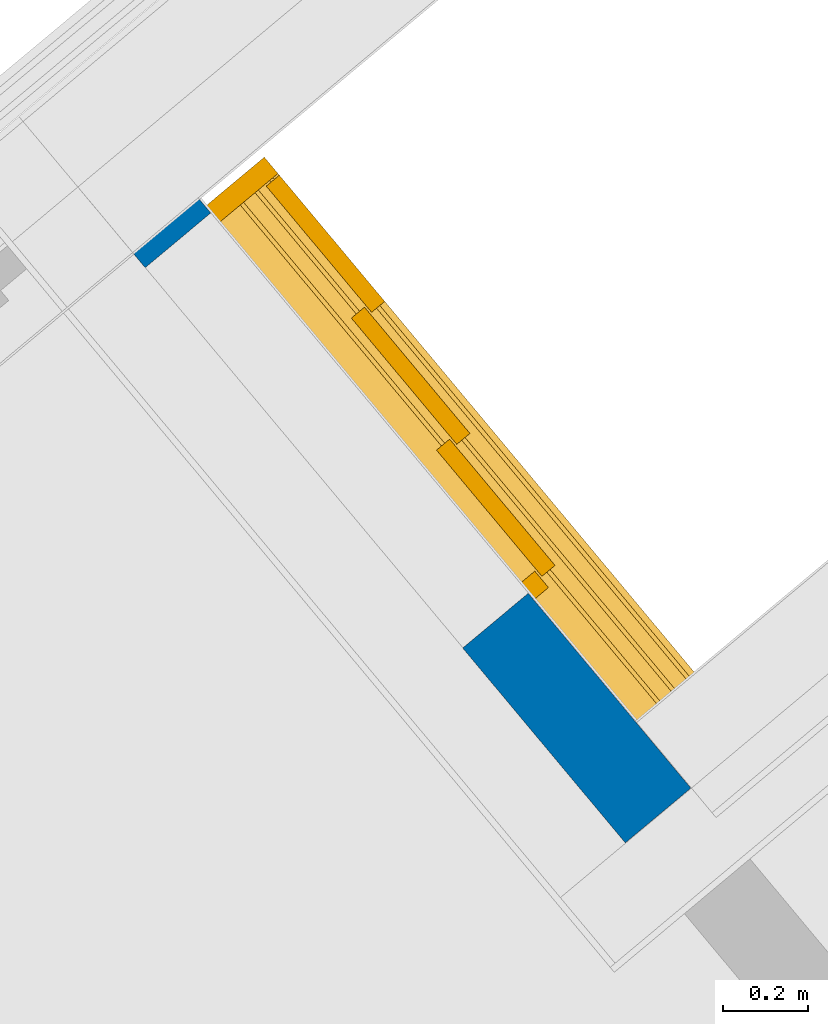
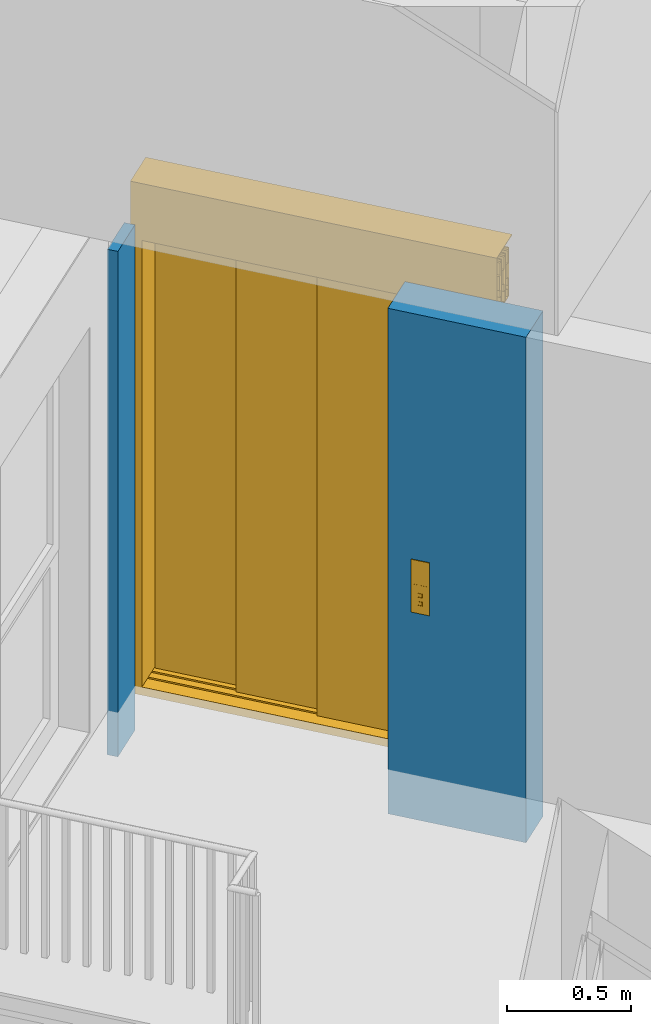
# One storey, part 4 of 47: 1 door, 1 wall, 1 opening.
"""IFC4 building model written with IfcOpenShell, lengths in metres."""

import ifcopenshell
import ifcopenshell.guid

model = None  # the IFC model being written
_history = None  # IfcOwnerHistory: only IFC2X3 demands one
_inside = {}  # id of a spatial element -> (the spatial element, [elements in it])
_under = {}  # id of a project, library or spatial element -> (it, [spatial elements below it])
_declared = {}  # id of a project -> (the project, [libraries it declares])
_typed = {}  # id of a type object -> (the type object, [elements of that type])
_made_of = {}  # id of a material, layer set ... -> (it, [elements and type objects made of it])


def new_model(schema):
    """Start an empty IFC model of exactly this schema.

    Asked for "IFC4X3", IfcOpenShell would pick the latest addendum, in which some entities
    have other attributes; the version numbers below select the first issue.
    IFC2X3 requires an IfcOwnerHistory on every rooted entity: one is made here for all.
    """
    global model, _history
    if schema == "IFC4X3":
        model = ifcopenshell.file(schema_version=(4, 3, 0, 0))
    else:
        model = ifcopenshell.file(schema=schema)
    _inside.clear()
    _under.clear()
    _declared.clear()
    _typed.clear()
    _made_of.clear()
    _history = None
    if model.schema == "IFC2X3":
        org = make("IfcOrganization", Name="unknown")
        user = make(
            "IfcPersonAndOrganization",
            ThePerson=make("IfcPerson", FamilyName="unknown"),
            TheOrganization=org,
        )
        app = make(
            "IfcApplication",
            ApplicationDeveloper=org,
            Version="unknown",
            ApplicationFullName="unknown",
            ApplicationIdentifier="unknown",
        )
        _history = make(
            "IfcOwnerHistory",
            OwningUser=user,
            OwningApplication=app,
            ChangeAction="ADDED",
            CreationDate=0,
        )
    return model


def make(cls, **values):
    """One entity of the class cls with the attributes given. An attribute that is None is left unset."""
    return model.create_entity(
        cls, **{name: value for name, value in values.items() if value is not None}
    )


def entity(cls, *values):
    """Any entity or typed value of the class cls, its attributes in the order of the schema. None: left unset."""
    e = model.create_entity(cls)
    for i, value in enumerate(values):
        if value is not None:
            e[i] = value
    return e


def rooted(cls, **values):
    """An entity with a GlobalId (a new one), such as an element, a storey or a relation."""
    return make(cls, GlobalId=ifcopenshell.guid.new(), OwnerHistory=_history, **values)


def si_unit(unit_type, name, prefix=None):
    """IfcSIUnit, for example si_unit("LENGTHUNIT", "METRE", prefix="MILLI")."""
    return make("IfcSIUnit", UnitType=unit_type, Prefix=prefix, Name=name)


def converted_unit(unit_type, name, factor, base, dimensions=None, offset=None):
    """IfcConversionBasedUnit, such as the inch: factor (a typed value) times the base unit."""
    return make(
        "IfcConversionBasedUnit"
        if offset is None
        else "IfcConversionBasedUnitWithOffset",
        ConversionOffset=offset,
        Dimensions=None
        if dimensions is None
        else entity("IfcDimensionalExponents", *dimensions),
        UnitType=unit_type,
        Name=name,
        ConversionFactor=make(
            "IfcMeasureWithUnit", ValueComponent=factor, UnitComponent=base
        ),
    )


def derived_unit(unit_type, elements):
    """IfcDerivedUnit: a product of units, each with its exponent."""
    return make(
        "IfcDerivedUnit",
        Elements=[
            make("IfcDerivedUnitElement", Unit=unit, Exponent=power)
            for unit, power in elements
        ],
        UnitType=unit_type,
    )


def assignment(units):
    """IfcUnitAssignment: the units of a project."""
    return None if units is None else make("IfcUnitAssignment", Units=units)


def point(xyz):
    """IfcCartesianPoint."""
    return None if xyz is None else make("IfcCartesianPoint", Coordinates=xyz)


def direction(xyz):
    """IfcDirection."""
    return None if xyz is None else make("IfcDirection", DirectionRatios=xyz)


def frame(location, z_axis=None, x_axis=None):
    """IfcAxis2Placement3D, a coordinate frame: its origin and axes. An axis left out is left unset."""
    return make(
        "IfcAxis2Placement3D",
        Location=point(location),
        Axis=direction(z_axis),
        RefDirection=direction(x_axis),
    )


def origin_with_axes():
    """The frame at (0, 0, 0) with the z axis (0, 0, 1) and the x axis (1, 0, 0) written out."""
    return frame((0.0, 0.0, 0.0), z_axis=(0.0, 0.0, 1.0), x_axis=(1.0, 0.0, 0.0))


def place(relative_to, where):
    """IfcLocalPlacement: puts the frame where relative to a parent placement (None: the world)."""
    return make(
        "IfcLocalPlacement", PlacementRelTo=relative_to, RelativePlacement=where
    )


def context(
    kind, dimensions, precision=None, world=None, true_north=None, identifier=None
):
    """IfcGeometricRepresentationContext, for example the 3D "Model" context."""
    return make(
        "IfcGeometricRepresentationContext",
        ContextIdentifier=identifier,
        ContextType=kind,
        CoordinateSpaceDimension=dimensions,
        Precision=precision,
        WorldCoordinateSystem=world,
        TrueNorth=true_north,
    )


def subcontext(parent, identifier, kind, view, scale=None):
    """IfcGeometricRepresentationSubContext, for example "Body" below "Model"."""
    return make(
        "IfcGeometricRepresentationSubContext",
        ContextIdentifier=identifier,
        ContextType=kind,
        ParentContext=parent,
        TargetScale=scale,
        TargetView=view,
    )


def project(units=None, contexts=None):
    """IfcProject with its units and contexts."""
    return rooted(
        "IfcProject",
        Name="project",
        RepresentationContexts=contexts,
        UnitsInContext=assignment(units),
    )


def spatial(cls, under=None, at=None, **own):
    """A site, building, storey or space (cls), placed at a placement, below another one or the project."""
    s = rooted(cls, ObjectPlacement=at, **own)
    if under is not None:
        _under.setdefault(under.id(), (under, []))[1].append(s)
    return s


def point_list(points):
    """IfcCartesianPointList2D or 3D."""
    cls = (
        "IfcCartesianPointList2D" if len(points[0]) == 2 else "IfcCartesianPointList3D"
    )
    return make(cls, CoordList=points)


def polygons(points, faces, closed=None, point_numbers=None):
    """IfcPolygonalFaceSet: a face is its outer loop, then its inner loops; points numbered from 1."""
    made = []
    for loops in faces:
        if len(loops) == 1:
            made.append(make("IfcIndexedPolygonalFace", CoordIndex=loops[0]))
        else:
            made.append(
                make(
                    "IfcIndexedPolygonalFaceWithVoids",
                    CoordIndex=loops[0],
                    InnerCoordIndices=loops[1:],
                )
            )
    return make(
        "IfcPolygonalFaceSet",
        Coordinates=point_list(points),
        Closed=closed,
        Faces=made,
        PnIndex=point_numbers,
    )


def shape(context_of_items, identifier, shape_type, items):
    """IfcShapeRepresentation: the items that make up one representation, for example the "Body"."""
    return make(
        "IfcShapeRepresentation",
        ContextOfItems=context_of_items,
        RepresentationIdentifier=identifier,
        RepresentationType=shape_type,
        Items=items,
    )


def source(mapping_origin, context_of_items, identifier, shape_type, items):
    """IfcRepresentationMap: a shape defined once, which mapped items show again and again."""
    return make(
        "IfcRepresentationMap",
        MappingOrigin=mapping_origin,
        MappedRepresentation=shape(context_of_items, identifier, shape_type, items),
    )


def transform(
    local_origin,
    x_axis=None,
    y_axis=None,
    z_axis=None,
    scale=None,
    scale2=None,
    scale3=None,
    uniform=True,
):
    """IfcCartesianTransformationOperator3D, or its non-uniform kind. x_axis, y_axis, z_axis: its Axis1, 2, 3."""
    if uniform:
        return make(
            "IfcCartesianTransformationOperator3D",
            Axis1=direction(x_axis),
            Axis2=direction(y_axis),
            LocalOrigin=point(local_origin),
            Scale=scale,
            Axis3=direction(z_axis),
        )
    return make(
        "IfcCartesianTransformationOperator3DnonUniform",
        Axis1=direction(x_axis),
        Axis2=direction(y_axis),
        LocalOrigin=point(local_origin),
        Scale=scale,
        Axis3=direction(z_axis),
        Scale2=scale2,
        Scale3=scale3,
    )


def mapped(mapping_source, mapping_target):
    """IfcMappedItem: shows the shape of a source again, moved by a transform."""
    return make(
        "IfcMappedItem", MappingSource=mapping_source, MappingTarget=mapping_target
    )


def material(Name=None, Category=None):
    """IfcMaterial."""
    return make("IfcMaterial", Name=Name, Category=Category)


def made_of(thing, what):
    """Note that an element or type object is made of a material, layer set ...; save() writes the relation."""
    if what is not None:
        _made_of.setdefault(what.id(), (what, []))[1].append(thing)
    return thing


def type_object(cls, material=None, **own):
    """A type object (cls), such as IfcWallType, which elements share."""
    return made_of(rooted(cls, **own), material)


def element(
    cls,
    number,
    at=None,
    inside=None,
    cuts=None,
    type_object=None,
    material=None,
    context=None,
    identifier="Body",
    shape_type=None,
    held_by="IfcProductDefinitionShape",
    body=None,
    shapes=None,
    **own,
):
    """One element of the class cls, such as IfcWall. Its Tag is "e" and its number.

    at: its placement. inside: the storey or other place that contains it. cuts: it is an
    opening in that element (IfcRelVoidsElement). A single representation is given by context,
    identifier, shape_type and body (its items); several are given by shapes. held_by: the class
    of the entity that holds the representations. save() writes the other relations.
    """
    e = rooted(cls, Tag="e%d" % number, ObjectPlacement=at, **own)
    if body is not None:
        shapes = [shape(context, identifier, shape_type, body)]
    if shapes is not None:
        e.Representation = make(held_by, Representations=shapes)
    if inside is not None:
        _inside.setdefault(inside.id(), (inside, []))[1].append(e)
    if cuts is not None:
        rooted(
            "IfcRelVoidsElement", RelatingBuildingElement=cuts, RelatedOpeningElement=e
        )
    if type_object is not None:
        _typed.setdefault(type_object.id(), (type_object, []))[1].append(e)
    return made_of(e, material)


def fill(opening, filler):
    """IfcRelFillsElement: the door or window that sits in an opening."""
    return rooted(
        "IfcRelFillsElement",
        RelatingOpeningElement=opening,
        RelatedBuildingElement=filler,
    )


def aggregate(whole, parts):
    """IfcRelAggregates: a whole, such as a stair, and the parts it consists of."""
    return rooted("IfcRelAggregates", RelatingObject=whole, RelatedObjects=parts)


def save(model, path):
    """Write the relations noted so far, then the file.

    IfcRelAggregates (storeys below a building ...), IfcRelContainedInSpatialStructure (elements
    in a storey), IfcRelDefinesByType, IfcRelAssociatesMaterial and IfcRelDeclares: one each for
    every whole, place, type object, material and project.
    """
    for whole, parts in _under.values():
        aggregate(whole, parts)
    for where, things in _inside.values():
        rooted(
            "IfcRelContainedInSpatialStructure",
            RelatedElements=things,
            RelatingStructure=where,
        )
    for kind, things in _typed.values():
        rooted("IfcRelDefinesByType", RelatedObjects=things, RelatingType=kind)
    for what, things in _made_of.values():
        rooted("IfcRelAssociatesMaterial", RelatedObjects=things, RelatingMaterial=what)
    for by, libraries in _declared.values():
        rooted("IfcRelDeclares", RelatingContext=by, RelatedDefinitions=libraries)
    model.write(path)


model = new_model("IFC4")

# Units and contexts
model_context = context("Model", 3, precision=1e-05, world=origin_with_axes(), true_north=direction((0.0, 1.0)))
body_context = subcontext(model_context, "Body", "Model", "MODEL_VIEW")
ifc_project = project(units=[si_unit("LENGTHUNIT", "METRE"), si_unit("AREAUNIT", "SQUARE_METRE"), si_unit("VOLUMEUNIT", "CUBIC_METRE"), converted_unit("PLANEANGLEUNIT", "DEGREE", entity("IfcPlaneAngleMeasure", 0.0174532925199), si_unit("PLANEANGLEUNIT", "RADIAN"), dimensions=[0, 0, 0, 0, 0, 0, 0]), converted_unit("TIMEUNIT", "Year", entity("IfcTimeMeasure", 31556926.0), si_unit("TIMEUNIT", "SECOND"), dimensions=[0, 0, 1, 0, 0, 0, 0]), si_unit("MASSUNIT", "GRAM", prefix="KILO"), si_unit("THERMODYNAMICTEMPERATUREUNIT", "DEGREE_CELSIUS"), si_unit("LUMINOUSINTENSITYUNIT", "LUMEN"), si_unit("ENERGYUNIT", "JOULE", prefix="MEGA"), derived_unit("THERMALCONDUCTANCEUNIT", [(si_unit("POWERUNIT", "WATT"), 1), (si_unit("LENGTHUNIT", "METRE"), -1), (si_unit("THERMODYNAMICTEMPERATUREUNIT", "KELVIN"), -1)]), derived_unit("SPECIFICHEATCAPACITYUNIT", [(si_unit("ENERGYUNIT", "JOULE"), 1), (si_unit("MASSUNIT", "GRAM", prefix="KILO"), -1), (si_unit("THERMODYNAMICTEMPERATUREUNIT", "KELVIN"), -1)]), derived_unit("MASSDENSITYUNIT", [(si_unit("MASSUNIT", "GRAM", prefix="KILO"), 1), (si_unit("VOLUMEUNIT", "CUBIC_METRE"), -1)])], contexts=[model_context])

# Site, building, storey
site_placement = place(None, frame((-0.00153261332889, -0.00661245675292, 0.0), z_axis=(0.0, 0.0, 1.0), x_axis=(1.0, 0.0, 0.0)))
site = spatial("IfcSite", under=ifc_project, at=site_placement, Name="Site", CompositionType="ELEMENT")
building_placement = place(site_placement, origin_with_axes())
building = spatial("IfcBuilding", under=site, at=building_placement, Name="Building", CompositionType="ELEMENT")
storey_placement = place(building_placement, frame((0.0, 0.0, 8.66), z_axis=(0.0, 0.0, 1.0), x_axis=(1.0, 0.0, 0.0)))
storey = spatial("IfcBuildingStorey", under=building, at=storey_placement, Name="DG2", CompositionType="ELEMENT", Elevation=8.66)

# Wall, opening, door
ifc_material = material(Name="Stahlbeton Wand")
wall_type = type_object("IfcWallType", Name="Stahlbeton Wand 200", PredefinedType="NOTDEFINED")
wall_placement = place(storey_placement, frame((1.49036026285, 24.6322982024, 0.0), z_axis=(0.0, 0.0, 1.0), x_axis=(-0.640868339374, 0.767650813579, 0.0)))
wall = element("IfcWall", 1, at=wall_placement, inside=storey, type_object=wall_type, material=ifc_material, Name="Wand-003", PredefinedType="NOTDEFINED", context=body_context, shape_type="Tessellation", body=[
    polygons([(1.75419055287, 0.2, 2.49), (1.75419055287, 0.0, 2.49), (1.80033514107, 0.0, 2.49), (1.80024623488, 0.2, 2.49), (1.75419055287, 0.0, 0.22), (1.75419055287, 0.2, 0.22), (1.75419055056, 0.0, 0.0), (1.80033514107, 0.0, 0.0), (1.80024623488, 0.2, 0.0), (1.75419055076, 0.2, 0.0)], [[[1, 2, 3, 4]], [[5, 2, 1, 6]], [[2, 5, 7, 8, 3]], [[8, 9, 4, 3]], [[6, 1, 4, 9, 10]], [[5, 6, 10, 7]], [[7, 10, 9, 8]]], closed=True),
    polygons([(0.594190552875, 0.0, 0.22), (0.594190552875, 0.0, 2.49), (0.0, 0.0, 2.49), (0.0, 0.0, 0.0), (0.594190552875, 0.0, 0.0), (0.594190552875, 0.2, 2.49), (0.594190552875, 0.2, 0.22), (0.0, 0.2, 2.49), (0.0, 0.2, 0.0), (0.594190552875, 0.2, 0.0)], [[[1, 2, 3, 4, 5]], [[6, 2, 1, 7]], [[2, 6, 8, 3]], [[8, 9, 4, 3]], [[10, 5, 4, 9]], [[7, 1, 5, 10]], [[6, 7, 10, 9, 8]]], closed=True),
])
opening_placement = place(wall_placement, frame((1.17419055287, 0.0, 0.22), z_axis=(0.0, 0.0, 1.0), x_axis=(1.0, 0.0, 0.0)))
opening = element("IfcOpeningElement", 2, at=opening_placement, cuts=wall, Name="Tür-003", context=body_context, identifier="Reference", shape_type="Tessellation", body=[
    polygons([(0.58, 1.2908631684, 2.35), (0.58, 1.2908631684, -0.22), (-0.58, 1.2908631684, -0.22), (-0.58, 1.2908631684, 2.35), (0.58, -1.0908631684, 2.35), (0.58, -1.0908631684, -0.22), (-0.58, -1.0908631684, -0.22), (-0.58, -1.0908631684, 2.35)], [[[1, 2, 3, 4]], [[5, 6, 2, 1]], [[6, 7, 3, 2]], [[7, 8, 4, 3]], [[8, 5, 1, 4]], [[7, 6, 5, 8]]], closed=True),
])
door_type = type_object("IfcDoorType", Name="Teleskoptür 26", OperationType="DOUBLE_DOOR_SLIDING", PredefinedType="NOTDEFINED")
shared_shape = source(origin_with_axes(), body_context, "Body", "Tessellation", [
    polygons([(0.975, 0.135, 2.2), (-0.6, 0.135, 2.2), (-0.6, 0.135, 2.238), (0.975, 0.135, 2.238), (0.975, 0.0, 2.2), (-0.6, 0.0, 2.2), (-0.6, 0.0, 2.48), (-0.6, 0.18, 2.48), (-0.6, 0.18, 2.477), (-0.6, 0.003, 2.477), (-0.6, 0.003, 2.203), (-0.6, 0.132, 2.203), (-0.6, 0.132, 2.238), (0.975, 0.132, 2.238), (0.975, 0.132, 2.203), (0.975, 0.003, 2.203), (0.975, 0.003, 2.477), (0.975, 0.18, 2.477), (0.975, 0.18, 2.48), (0.975, 0.0, 2.48)], [[[1, 2, 3, 4]], [[5, 6, 2, 1]], [[2, 6, 7, 8, 9, 10, 11, 12, 13, 3]], [[4, 3, 13, 14]], [[1, 4, 14, 15, 16, 17, 18, 19, 20, 5]], [[20, 7, 6, 5]], [[19, 8, 7, 20]], [[18, 9, 8, 19]], [[17, 10, 9, 18]], [[16, 11, 10, 17]], [[15, 12, 11, 16]], [[14, 13, 12, 15]]], closed=True),
    polygons([(0.975, 0.05, 2.203), (-0.6, 0.05, 2.203), (-0.6, 0.055, 2.203), (0.975, 0.055, 2.203), (0.975, 0.05, 2.44), (-0.6, 0.05, 2.44), (-0.6, 0.055, 2.44), (0.975, 0.055, 2.44)], [[[1, 2, 3, 4]], [[5, 6, 2, 1]], [[2, 6, 7, 3]], [[4, 3, 7, 8]], [[1, 4, 8, 5]], [[8, 7, 6, 5]]], closed=True),
    polygons([(0.975, 0.05, 2.43), (-0.6, 0.05, 2.43), (-0.6, 0.04, 2.43), (0.975, 0.04, 2.43), (0.975, 0.05, 2.37), (-0.6, 0.05, 2.37), (-0.6, 0.04, 2.37), (0.975, 0.04, 2.37)], [[[1, 2, 3, 4]], [[5, 6, 2, 1]], [[2, 6, 7, 3]], [[4, 3, 7, 8]], [[1, 4, 8, 5]], [[8, 7, 6, 5]]], closed=True),
    polygons([(0.975, 0.05, 2.3), (-0.6, 0.05, 2.3), (-0.6, 0.04, 2.3), (0.975, 0.04, 2.3), (0.975, 0.05, 2.26), (-0.6, 0.05, 2.26), (-0.6, 0.04, 2.26), (0.975, 0.04, 2.26)], [[[1, 2, 3, 4]], [[5, 6, 2, 1]], [[2, 6, 7, 3]], [[4, 3, 7, 8]], [[1, 4, 8, 5]], [[8, 7, 6, 5]]], closed=True),
    polygons([(0.975, 0.05, 2.37), (-0.6, 0.05, 2.37), (-0.6, 0.03, 2.37), (0.975, 0.03, 2.37), (0.975, 0.05, 2.3), (-0.6, 0.05, 2.3), (-0.6, 0.03, 2.3), (0.975, 0.03, 2.3)], [[[1, 2, 3, 4]], [[5, 6, 2, 1]], [[2, 6, 7, 3]], [[4, 3, 7, 8]], [[1, 4, 8, 5]], [[8, 7, 6, 5]]], closed=True),
    polygons([(0.975, 0.095, 2.203), (-0.6, 0.095, 2.203), (-0.6, 0.1, 2.203), (0.975, 0.1, 2.203), (0.975, 0.095, 2.44), (-0.6, 0.095, 2.44), (-0.6, 0.1, 2.44), (0.975, 0.1, 2.44)], [[[1, 2, 3, 4]], [[5, 6, 2, 1]], [[2, 6, 7, 3]], [[4, 3, 7, 8]], [[1, 4, 8, 5]], [[8, 7, 6, 5]]], closed=True),
    polygons([(0.975, 0.095, 2.43), (-0.6, 0.095, 2.43), (-0.6, 0.085, 2.43), (0.975, 0.085, 2.43), (0.975, 0.095, 2.37), (-0.6, 0.095, 2.37), (-0.6, 0.085, 2.37), (0.975, 0.085, 2.37)], [[[1, 2, 3, 4]], [[5, 6, 2, 1]], [[2, 6, 7, 3]], [[4, 3, 7, 8]], [[1, 4, 8, 5]], [[8, 7, 6, 5]]], closed=True),
    polygons([(0.975, 0.095, 2.3), (-0.6, 0.095, 2.3), (-0.6, 0.085, 2.3), (0.975, 0.085, 2.3), (0.975, 0.095, 2.26), (-0.6, 0.095, 2.26), (-0.6, 0.085, 2.26), (0.975, 0.085, 2.26)], [[[1, 2, 3, 4]], [[5, 6, 2, 1]], [[2, 6, 7, 3]], [[4, 3, 7, 8]], [[1, 4, 8, 5]], [[8, 7, 6, 5]]], closed=True),
    polygons([(0.975, 0.095, 2.37), (-0.6, 0.095, 2.37), (-0.6, 0.075, 2.37), (0.975, 0.075, 2.37), (0.975, 0.095, 2.3), (-0.6, 0.095, 2.3), (-0.6, 0.075, 2.3), (0.975, 0.075, 2.3)], [[[1, 2, 3, 4]], [[5, 6, 2, 1]], [[2, 6, 7, 3]], [[4, 3, 7, 8]], [[1, 4, 8, 5]], [[8, 7, 6, 5]]], closed=True),
    polygons([(0.975, 0.14, 2.203), (-0.6, 0.14, 2.203), (-0.6, 0.145, 2.203), (0.975, 0.145, 2.203), (0.975, 0.14, 2.44), (-0.6, 0.14, 2.44), (-0.6, 0.145, 2.44), (0.975, 0.145, 2.44)], [[[1, 2, 3, 4]], [[5, 6, 2, 1]], [[2, 6, 7, 3]], [[4, 3, 7, 8]], [[1, 4, 8, 5]], [[8, 7, 6, 5]]], closed=True),
    polygons([(0.975, 0.14, 2.43), (-0.6, 0.14, 2.43), (-0.6, 0.13, 2.43), (0.975, 0.13, 2.43), (0.975, 0.14, 2.37), (-0.6, 0.14, 2.37), (-0.6, 0.13, 2.37), (0.975, 0.13, 2.37)], [[[1, 2, 3, 4]], [[5, 6, 2, 1]], [[2, 6, 7, 3]], [[4, 3, 7, 8]], [[1, 4, 8, 5]], [[8, 7, 6, 5]]], closed=True),
    polygons([(0.975, 0.14, 2.3), (-0.6, 0.14, 2.3), (-0.6, 0.13, 2.3), (0.975, 0.13, 2.3), (0.975, 0.14, 2.26), (-0.6, 0.14, 2.26), (-0.6, 0.13, 2.26), (0.975, 0.13, 2.26)], [[[1, 2, 3, 4]], [[5, 6, 2, 1]], [[2, 6, 7, 3]], [[4, 3, 7, 8]], [[1, 4, 8, 5]], [[8, 7, 6, 5]]], closed=True),
    polygons([(0.975, 0.14, 2.37), (-0.6, 0.14, 2.37), (-0.6, 0.12, 2.37), (0.975, 0.12, 2.37), (0.975, 0.14, 2.3), (-0.6, 0.14, 2.3), (-0.6, 0.12, 2.3), (0.975, 0.12, 2.3)], [[[1, 2, 3, 4]], [[5, 6, 2, 1]], [[2, 6, 7, 3]], [[4, 3, 7, 8]], [[1, 4, 8, 5]], [[8, 7, 6, 5]]], closed=True),
    polygons([(0.975, 0.0, 0.0), (-0.6, 0.0, 0.0), (-0.6, 0.0, -0.04), (0.975, 0.0, -0.04), (0.975, 0.065, 0.0), (-0.6, 0.065, 0.0), (-0.6, 0.065, -0.01), (-0.6, 0.075, -0.01), (-0.6, 0.075, 0.0), (-0.6, 0.11, 0.0), (-0.6, 0.11, -0.01), (-0.6, 0.12, -0.01), (-0.6, 0.12, 0.0), (-0.6, 0.155, 0.0), (-0.6, 0.155, -0.01), (-0.6, 0.165, -0.01), (-0.6, 0.165, 0.0), (-0.6, 0.18, 0.0), (-0.6, 0.18, -0.04), (0.975, 0.18, -0.04), (0.975, 0.18, 0.0), (0.975, 0.165, 0.0), (0.975, 0.165, -0.01), (0.975, 0.155, -0.01), (0.975, 0.155, 0.0), (0.975, 0.12, 0.0), (0.975, 0.12, -0.01), (0.975, 0.11, -0.01), (0.975, 0.11, 0.0), (0.975, 0.075, 0.0), (0.975, 0.075, -0.01), (0.975, 0.065, -0.01)], [[[1, 2, 3, 4]], [[5, 6, 2, 1]], [[2, 6, 7, 8, 9, 10, 11, 12, 13, 14, 15, 16, 17, 18, 19, 3]], [[4, 3, 19, 20]], [[1, 4, 20, 21, 22, 23, 24, 25, 26, 27, 28, 29, 30, 31, 32, 5]], [[32, 7, 6, 5]], [[31, 8, 7, 32]], [[30, 9, 8, 31]], [[29, 10, 9, 30]], [[28, 11, 10, 29]], [[27, 12, 11, 28]], [[26, 13, 12, 27]], [[25, 14, 13, 26]], [[24, 15, 14, 25]], [[23, 16, 15, 24]], [[22, 17, 16, 23]], [[21, 18, 17, 22]], [[20, 19, 18, 21]]], closed=True),
    polygons([(0.55, 0.0, 0.0), (0.55, 0.0, 2.2), (0.55, 0.045, 2.2), (0.55, 0.045, 0.0), (0.6, 0.0, 0.0), (0.6, 0.0, 2.2), (0.6, 0.045, 2.2), (0.6, 0.045, 0.0)], [[[1, 2, 3, 4]], [[5, 6, 2, 1]], [[2, 6, 7, 3]], [[4, 3, 7, 8]], [[1, 4, 8, 5]], [[8, 7, 6, 5]]], closed=True),
    polygons([(-0.6, 0.0, 0.0), (-0.6, 0.0, 2.2), (-0.6, 0.18, 2.2), (-0.6, 0.18, 0.0), (-0.55, 0.0, 0.0), (-0.55, 0.0, 2.2), (-0.55, 0.18, 2.2), (-0.55, 0.18, 0.0)], [[[1, 2, 3, 4]], [[5, 6, 2, 1]], [[2, 6, 7, 3]], [[4, 3, 7, 8]], [[1, 4, 8, 5]], [[8, 7, 6, 5]]], closed=True),
    polygons([(0.68, -0.2, 0.8), (0.76, -0.2, 0.8), (0.76, -0.203, 0.8), (0.68, -0.203, 0.8), (0.68, -0.2, 1.06), (0.76, -0.2, 1.06), (0.69, -0.2, 1.03), (0.69, -0.2, 0.94), (0.75, -0.2, 0.94), (0.75, -0.2, 1.03), (0.71, -0.2, 0.84), (0.73, -0.2, 0.84), (0.73, -0.2, 0.86), (0.71, -0.2, 0.86), (0.71, -0.2, 0.88), (0.73, -0.2, 0.88), (0.73, -0.2, 0.9), (0.71, -0.2, 0.9), (0.76, -0.203, 1.06), (0.68, -0.203, 1.06), (0.69, -0.203, 1.03), (0.75, -0.203, 1.03), (0.75, -0.203, 0.94), (0.69, -0.203, 0.94), (0.71, -0.203, 0.84), (0.71, -0.203, 0.86), (0.73, -0.203, 0.86), (0.73, -0.203, 0.84), (0.71, -0.203, 0.88), (0.71, -0.203, 0.9), (0.73, -0.203, 0.9), (0.73, -0.203, 0.88)], [[[1, 2, 3, 4]], [[1, 5, 6, 2], [7, 8, 9, 10], [11, 12, 13, 14], [15, 16, 17, 18]], [[2, 6, 19, 3]], [[4, 3, 19, 20], [21, 22, 23, 24], [25, 26, 27, 28], [29, 30, 31, 32]], [[5, 1, 4, 20]], [[6, 5, 20, 19]], [[8, 7, 21, 24]], [[9, 8, 24, 23]], [[10, 9, 23, 22]], [[7, 10, 22, 21]], [[12, 11, 25, 28]], [[13, 12, 28, 27]], [[14, 13, 27, 26]], [[11, 14, 26, 25]], [[16, 15, 29, 32]], [[17, 16, 32, 31]], [[18, 17, 31, 30]], [[15, 18, 30, 29]]], closed=True),
    polygons([(0.69, -0.2, 0.94), (0.75, -0.2, 0.94), (0.75, -0.2025, 0.94), (0.69, -0.2025, 0.94), (0.69, -0.2, 1.03), (0.75, -0.2, 1.03), (0.75, -0.2025, 1.03), (0.69, -0.2025, 1.03)], [[[1, 2, 3, 4]], [[1, 5, 6, 2]], [[2, 6, 7, 3]], [[4, 3, 7, 8]], [[5, 1, 4, 8]], [[6, 5, 8, 7]]], closed=True),
    polygons([(0.704, -0.203, 1.005), (0.71, -0.203, 1.021), (0.716, -0.203, 1.005)], [[[1, 2, 3]]], closed=False),
    polygons([(0.73, -0.203, 1.005), (0.724, -0.203, 1.021), (0.736, -0.203, 1.021)], [[[1, 2, 3]]], closed=False),
    polygons([(0.717272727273, -0.2035, 0.982), (0.717272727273, -0.2035, 0.971636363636), (0.715909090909, -0.2035, 0.970272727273), (0.714545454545, -0.2035, 0.971636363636), (0.714545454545, -0.2035, 0.982), (0.715909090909, -0.2035, 0.983363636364)], [[[1, 2, 3, 4, 5, 6]]], closed=False),
    polygons([(0.717272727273, -0.2035, 0.968363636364), (0.717272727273, -0.2035, 0.958), (0.715909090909, -0.2035, 0.956636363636), (0.714545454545, -0.2035, 0.958), (0.714545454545, -0.2035, 0.968363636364), (0.715909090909, -0.2035, 0.969727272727)], [[[1, 2, 3, 4, 5, 6]]], closed=False),
    polygons([(0.736090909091, -0.2035, 0.982272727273), (0.725727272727, -0.2035, 0.982272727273), (0.724363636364, -0.2035, 0.983636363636), (0.725727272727, -0.2035, 0.985), (0.736090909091, -0.2035, 0.985), (0.737454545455, -0.2035, 0.983636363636)], [[[1, 2, 3, 4, 5, 6]]], closed=False),
    polygons([(0.739090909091, -0.2035, 0.982), (0.739090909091, -0.2035, 0.971636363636), (0.737727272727, -0.2035, 0.970272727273), (0.736363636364, -0.2035, 0.971636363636), (0.736363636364, -0.2035, 0.982), (0.737727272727, -0.2035, 0.983363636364)], [[[1, 2, 3, 4, 5, 6]]], closed=False),
    polygons([(0.736090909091, -0.2035, 0.968636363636), (0.725727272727, -0.2035, 0.968636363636), (0.724363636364, -0.2035, 0.97), (0.725727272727, -0.2035, 0.971363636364), (0.736090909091, -0.2035, 0.971363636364), (0.737454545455, -0.2035, 0.97)], [[[1, 2, 3, 4, 5, 6]]], closed=False),
    polygons([(0.725454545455, -0.2035, 0.968363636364), (0.725454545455, -0.2035, 0.958), (0.724090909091, -0.2035, 0.956636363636), (0.722727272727, -0.2035, 0.958), (0.722727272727, -0.2035, 0.968363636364), (0.724090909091, -0.2035, 0.969727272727)], [[[1, 2, 3, 4, 5, 6]]], closed=False),
    polygons([(0.736090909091, -0.2035, 0.955), (0.725727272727, -0.2035, 0.955), (0.724363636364, -0.2035, 0.956363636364), (0.725727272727, -0.2035, 0.957727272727), (0.736090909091, -0.2035, 0.957727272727), (0.737454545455, -0.2035, 0.956363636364)], [[[1, 2, 3, 4, 5, 6]]], closed=False),
    polygons([(0.73, -0.2, 0.84), (0.71, -0.2, 0.84), (0.71, -0.2, 0.86), (0.73, -0.2, 0.86), (0.730000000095, -0.2015, 0.83999999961), (0.70999999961, -0.2015, 0.83999999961), (0.70999999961, -0.2015, 0.860000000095), (0.730000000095, -0.2015, 0.860000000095), (0.728599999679, -0.202900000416, 0.841400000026), (0.711400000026, -0.202900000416, 0.841400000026), (0.711400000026, -0.202900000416, 0.858599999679), (0.728599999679, -0.202900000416, 0.858599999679)], [[[1, 2, 3, 4]], [[2, 1, 5, 6]], [[3, 2, 6, 7]], [[4, 3, 7, 8]], [[1, 4, 8, 5]], [[6, 5, 9, 10]], [[7, 6, 10, 11]], [[8, 7, 11, 12]], [[5, 8, 12, 9]], [[11, 10, 9, 12]]], closed=True),
    polygons([(0.725, -0.203, 0.855), (0.72, -0.203, 0.844), (0.715, -0.203, 0.855)], [[[1, 2, 3]]], closed=False),
    polygons([(0.73, -0.2, 0.88), (0.71, -0.2, 0.88), (0.71, -0.2, 0.9), (0.73, -0.2, 0.9), (0.730000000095, -0.2015, 0.87999999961), (0.70999999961, -0.2015, 0.87999999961), (0.70999999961, -0.2015, 0.900000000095), (0.730000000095, -0.2015, 0.900000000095), (0.728599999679, -0.202900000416, 0.881400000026), (0.711400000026, -0.202900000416, 0.881400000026), (0.711400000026, -0.202900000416, 0.898599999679), (0.728599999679, -0.202900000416, 0.898599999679)], [[[1, 2, 3, 4]], [[2, 1, 5, 6]], [[3, 2, 6, 7]], [[4, 3, 7, 8]], [[1, 4, 8, 5]], [[6, 5, 9, 10]], [[7, 6, 10, 11]], [[8, 7, 11, 12]], [[5, 8, 12, 9]], [[11, 10, 9, 12]]], closed=True),
    polygons([(0.725, -0.203, 0.885), (0.715, -0.203, 0.885), (0.72, -0.203, 0.896)], [[[1, 2, 3]]], closed=False),
    polygons([(-0.16, 0.14, 0.003), (-0.545, 0.14, 0.003), (-0.545, 0.18, 0.003), (-0.16, 0.18, 0.003), (-0.16, 0.14, 2.2), (-0.545, 0.14, 2.2), (-0.545, 0.18, 2.2), (-0.16, 0.18, 2.2)], [[[1, 2, 3, 4]], [[1, 5, 6, 2]], [[2, 6, 7, 3]], [[4, 3, 7, 8]], [[5, 1, 4, 8]], [[6, 5, 8, 7]]], closed=True),
    polygons([(0.205, 0.095, 0.003), (-0.18, 0.095, 0.003), (-0.18, 0.135, 0.003), (0.205, 0.135, 0.003), (0.205, 0.095, 2.2), (-0.18, 0.095, 2.2), (-0.18, 0.135, 2.2), (0.205, 0.135, 2.2)], [[[1, 2, 3, 4]], [[1, 5, 6, 2]], [[2, 6, 7, 3]], [[4, 3, 7, 8]], [[5, 1, 4, 8]], [[6, 5, 8, 7]]], closed=True),
    polygons([(0.57, 0.05, 0.003), (0.185, 0.05, 0.003), (0.185, 0.09, 0.003), (0.57, 0.09, 0.003), (0.57, 0.05, 2.2), (0.185, 0.05, 2.2), (0.185, 0.09, 2.2), (0.57, 0.09, 2.2)], [[[1, 2, 3, 4]], [[1, 5, 6, 2]], [[2, 6, 7, 3]], [[4, 3, 7, 8]], [[5, 1, 4, 8]], [[6, 5, 8, 7]]], closed=True),
])
door_placement = place(opening_placement, frame((0.55, 0.0, 0.0), z_axis=(0.0, 0.0, 1.0), x_axis=(-1.0, 0.0, 0.0)))
door = element("IfcDoor", 3, at=door_placement, inside=storey, type_object=door_type, Name="Tür-003", OverallHeight=2.57, OverallWidth=1.16, PredefinedType="NOTDEFINED", context=body_context, shape_type="MappedRepresentation", body=[
    mapped(shared_shape, transform((0.55, 0.0, 0.0))),
])
fill(opening, door)

save(model, "model.ifc")
